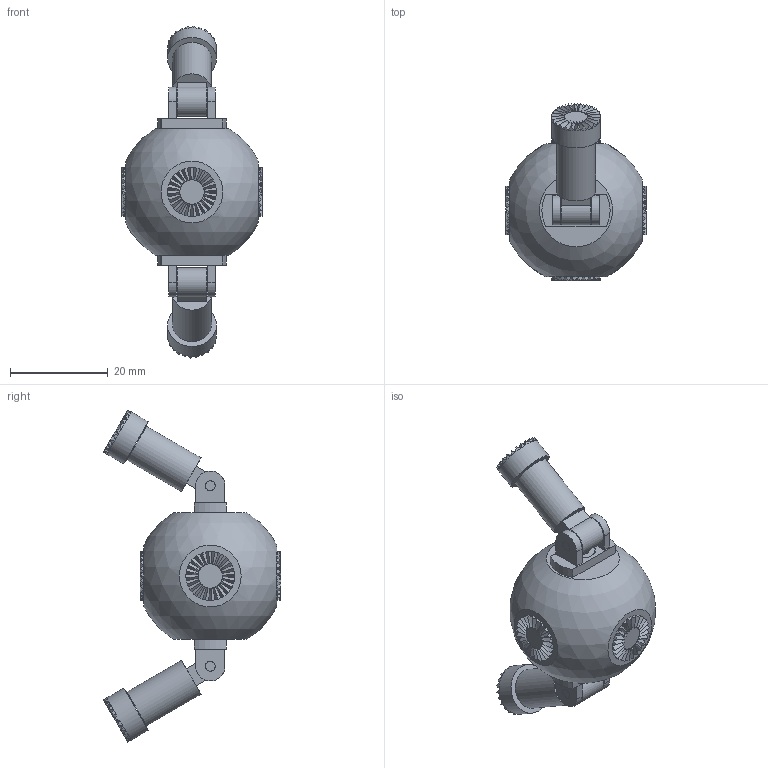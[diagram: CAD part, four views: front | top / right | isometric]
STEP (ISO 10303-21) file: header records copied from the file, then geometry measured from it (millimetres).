
FILE_DESCRIPTION(('Open CASCADE Model'),'2;1');
FILE_NAME('Open CASCADE Shape Model','2026-10-23T00:30:08',('Author'),( 'Open CASCADE'),'Open CASCADE STEP processor 7.9','Open CASCADE 7.9' ,'Unknown');
FILE_SCHEMA(('AUTOMOTIVE_DESIGN { 1 0 10303 214 1 1 1 1 }'));
Length unit declared in the file: millimetre
Products named in the file (10): bot_V60; bot0_body; bot0_turret_top; bot0_pin_top; bot0_arm_top; bot0_tip_top; bot0_turret_bottom; bot0_pin_bottom; bot0_arm_bottom; bot0_tip_bottom
Assembly tree (9 placements, depth 2):
  bot_V60
    bot0_body
    bot0_turret_top
    bot0_pin_top
    bot0_arm_top
    bot0_tip_top
    bot0_turret_bottom
    bot0_pin_bottom
    bot0_arm_bottom
    bot0_tip_bottom
Bounding box: 28.8 x 36.29 x 68.04 mm (x, y, z)
Volume: 6207.9 mm3; surface area: 9536 mm2
Topology: 9 solids, 9 shells, 880 faces, 2132 edges, 1298 vertices
Faces by surface type: cylinder 472, bspline 288, plane 118, sphere 2
Full cylindrical faces by diameter (mm): 2 x2, 2.04 x6, 2.6 x2, 3.8 x4, 5 x4, 5.2 x2, 6 x2, 8 x2, 10 x6, 14.967 x2
Entity records: 66767 total; most frequent: CARTESIAN_POINT 30769, DIRECTION 4307, ORIENTED_EDGE 4264, PCURVE 4264, DEFINITIONAL_REPRESENTATION 4264, B_SPLINE_CURVE_WITH_KNOTS 3834, EDGE_CURVE 2132, SURFACE_CURVE 2096
